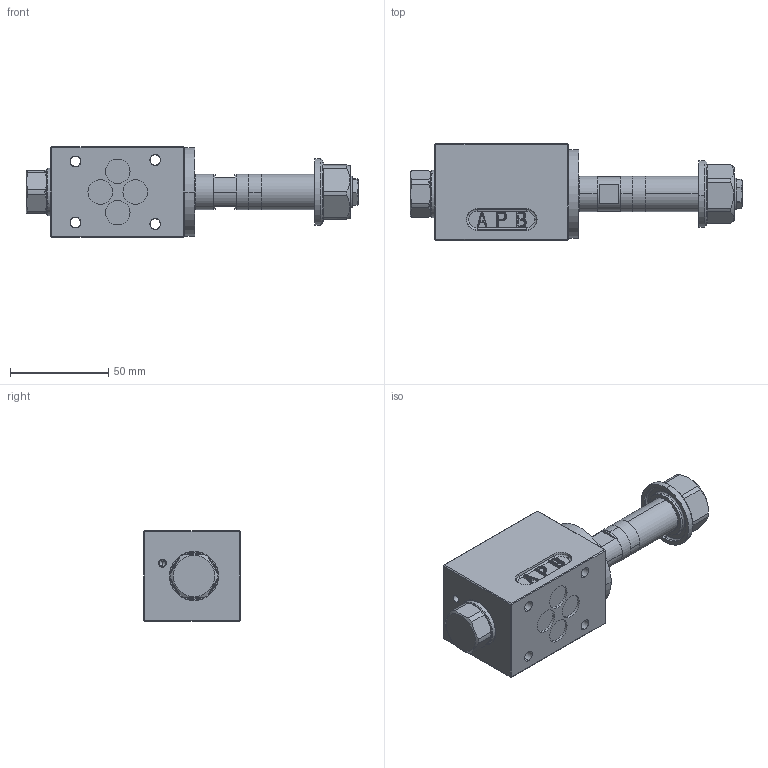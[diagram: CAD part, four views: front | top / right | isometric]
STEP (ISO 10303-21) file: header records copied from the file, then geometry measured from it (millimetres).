
FILE_DESCRIPTION (( 'STEP AP203' ), '1' );
FILE_NAME ('WDBFA06-4_2-Bside.step', '2014-01-22T12:24:16', ( 'Wandfluh AG' ), ( 'Wandfluh AG' ), 'SwSTEP 2.0', 'SolidWorks 2012', '' );
FILE_SCHEMA (( 'CONFIG_CONTROL_DESIGN' ));
Length unit declared in the file: millimetre
Products named in the file (1): WDBFA06-4_2-Bside
Bounding box: 168.6 x 49 x 46 mm (x, y, z)
Volume: 178366 mm3; surface area: 49292.5 mm2
Topology: 15 solids, 15 shells, 1780 faces, 4637 edges, 2981 vertices
Faces by surface type: plane 1064, cylinder 450, cone 108, torus 88, bspline 52, sphere 18
Entity records: 56654 total; most frequent: CARTESIAN_POINT 12097, DIRECTION 9471, ORIENTED_EDGE 9224, EDGE_CURVE 4612, AXIS2_PLACEMENT_3D 3294, VERTEX_POINT 2981, LINE 2883, VECTOR 2883
